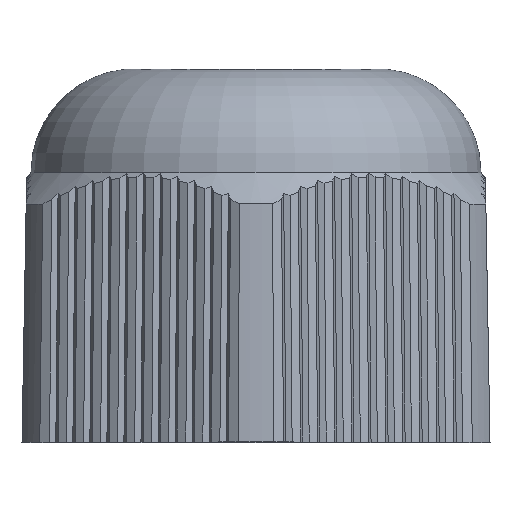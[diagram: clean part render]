
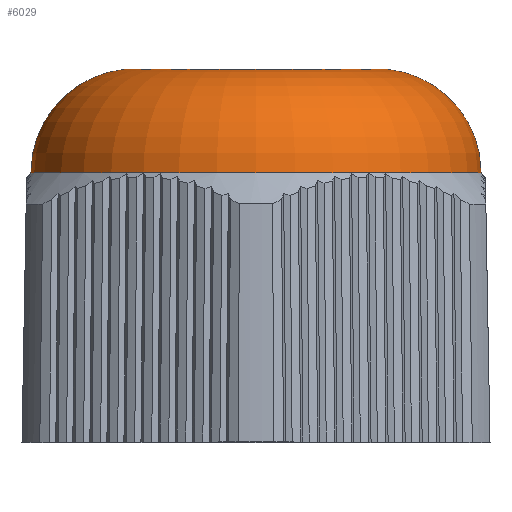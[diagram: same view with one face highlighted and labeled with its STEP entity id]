
A CAD part, top view. The second image highlights one B-rep face of the part: STEP entity #6029.
In plain terms, the highlighted toroidal (fillet/blend) face has major radius 6.15 mm and minor radius 5.3 mm.
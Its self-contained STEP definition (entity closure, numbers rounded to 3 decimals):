
#359 = AXIS2_PLACEMENT_3D ( 'NONE', #4571, #8381, #8331 ) ;
#1618 = DIRECTION ( 'NONE',  ( 0., -1., 0. ) ) ;
#1637 = ORIENTED_EDGE ( 'NONE', *, *, #9232, .F. ) ;
#2149 = DIRECTION ( 'NONE',  ( 0., -1., 0. ) ) ;
#2975 = CARTESIAN_POINT ( 'NONE',  ( 0., 13.7, -11.45 ) ) ;
#3023 = FACE_OUTER_BOUND ( 'NONE', #8638, .T. ) ;
#3255 = EDGE_LOOP ( 'NONE', ( #1637 ) ) ;
#4444 = FACE_OUTER_BOUND ( 'NONE', #3255, .T. ) ;
#4571 = CARTESIAN_POINT ( 'NONE',  ( 0., 13.7, 0. ) ) ;
#4801 = DIRECTION ( 'NONE',  ( 0., 0., -1. ) ) ;
#5863 = CARTESIAN_POINT ( 'NONE',  ( 0., 13.7, 0. ) ) ;
#6029 = ADVANCED_FACE ( 'NONE', ( #3023, #4444 ), #6769, .T. ) ;
#6134 = CIRCLE ( 'NONE', #359, 11.45 ) ;
#6157 = CARTESIAN_POINT ( 'NONE',  ( 0., 18.971, -6.702 ) ) ;
#6168 = AXIS2_PLACEMENT_3D ( 'NONE', #9094, #1618, #4801 ) ;
#6683 = DIRECTION ( 'NONE',  ( 0., 0., -1. ) ) ;
#6769 = TOROIDAL_SURFACE ( 'NONE', #8341, 6.15, 5.3 ) ;
#6876 = VERTEX_POINT ( 'NONE', #2975 ) ;
#7064 = EDGE_CURVE ( 'NONE', #8993, #8993, #9590, .T. ) ;
#8331 = DIRECTION ( 'NONE',  ( 0., 0., -1. ) ) ;
#8341 = AXIS2_PLACEMENT_3D ( 'NONE', #5863, #2149, #6683 ) ;
#8381 = DIRECTION ( 'NONE',  ( 0., -1., 0. ) ) ;
#8638 = EDGE_LOOP ( 'NONE', ( #8838 ) ) ;
#8838 = ORIENTED_EDGE ( 'NONE', *, *, #7064, .T. ) ;
#8993 = VERTEX_POINT ( 'NONE', #6157 ) ;
#9094 = CARTESIAN_POINT ( 'NONE',  ( 0., 18.971, 0. ) ) ;
#9232 = EDGE_CURVE ( 'NONE', #6876, #6876, #6134, .T. ) ;
#9590 = CIRCLE ( 'NONE', #6168, 6.702 ) ;
